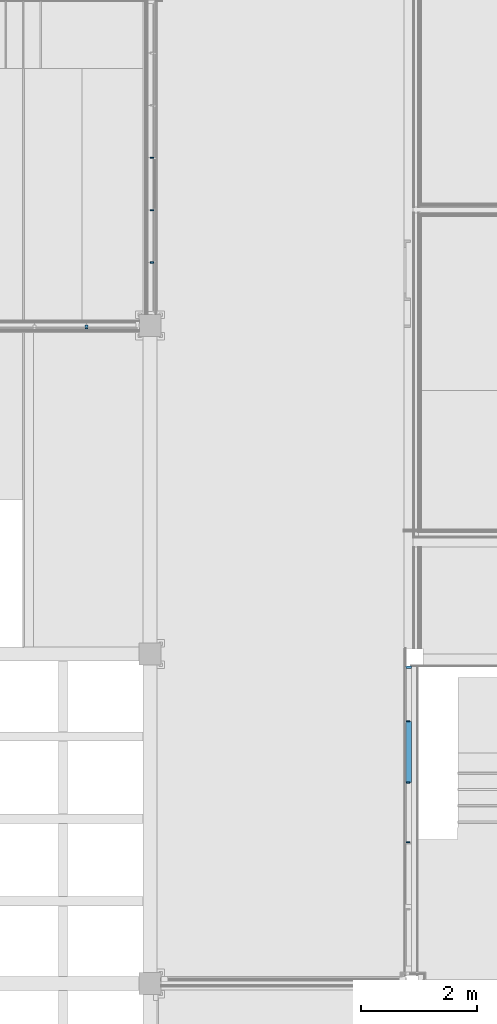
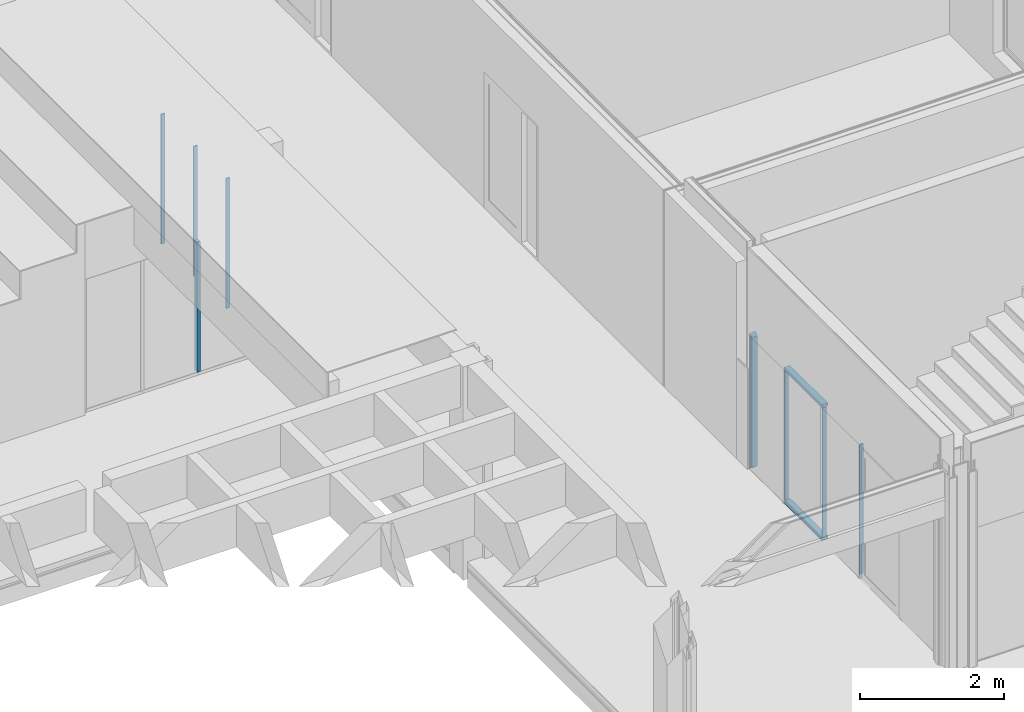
# One storey, part 8 of 139: 10 members, 3 elements without a shape of their own.
"""IFC2X3 building model written with IfcOpenShell, lengths in millimetres."""

from ifc_helpers import new_model, entity, si_unit, converted_unit, derived_unit, money_unit, direction, frame, origin_with_axes, place, context, subcontext, project, spatial, faceted_brep, source, transform, mapped, material, type_object, element, aggregate, save


model = new_model("IFC2X3")

# Units and contexts
model_context = context("Model", 3, precision=0.01, world=origin_with_axes(), true_north=direction((0.0, 1.0)))
body_context = subcontext(model_context, "Body", "Model", "MODEL_VIEW")
ifc_project = project(units=[si_unit("LENGTHUNIT", "METRE", prefix="MILLI"), si_unit("AREAUNIT", "SQUARE_METRE"), si_unit("VOLUMEUNIT", "CUBIC_METRE"), converted_unit("PLANEANGLEUNIT", "DEGREE", entity("IfcPlaneAngleMeasure", 0.0174532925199), si_unit("PLANEANGLEUNIT", "RADIAN"), dimensions=[0, 0, 0, 0, 0, 0, 0]), money_unit("EUR"), converted_unit("TIMEUNIT", "Year", entity("IfcTimeMeasure", 31556926.0), si_unit("TIMEUNIT", "SECOND"), dimensions=[0, 0, 1, 0, 0, 0, 0]), si_unit("MASSUNIT", "GRAM", prefix="KILO"), si_unit("THERMODYNAMICTEMPERATUREUNIT", "DEGREE_CELSIUS"), si_unit("LUMINOUSINTENSITYUNIT", "LUMEN"), si_unit("ENERGYUNIT", "JOULE", prefix="MEGA"), derived_unit("THERMALCONDUCTANCEUNIT", [(si_unit("POWERUNIT", "WATT"), 1), (si_unit("LENGTHUNIT", "METRE"), -1), (si_unit("THERMODYNAMICTEMPERATUREUNIT", "KELVIN"), -1)]), derived_unit("SPECIFICHEATCAPACITYUNIT", [(si_unit("ENERGYUNIT", "JOULE"), 1), (si_unit("MASSUNIT", "GRAM", prefix="KILO"), -1), (si_unit("THERMODYNAMICTEMPERATUREUNIT", "KELVIN"), -1)]), derived_unit("MASSDENSITYUNIT", [(si_unit("MASSUNIT", "GRAM", prefix="KILO"), 1), (si_unit("VOLUMEUNIT", "CUBIC_METRE"), -1)])], contexts=[model_context])

# Site, building, storey
site_placement = place(None, origin_with_axes())
site = spatial("IfcSite", under=ifc_project, at=site_placement, Name="Kolde pst 67a", CompositionType="ELEMENT")
building_placement = place(site_placement, origin_with_axes())
building = spatial("IfcBuilding", under=site, at=building_placement, Name="Riigigümnaasium", CompositionType="ELEMENT")
storey_placement = place(building_placement, frame((0.0, 0.0, 4600.0), z_axis=(0.0, 0.0, 1.0), x_axis=(1.0, 0.0, 0.0)))
storey = spatial("IfcBuildingStorey", under=building, at=storey_placement, Name="2. korrus", CompositionType="ELEMENT", Elevation=4600.0)

# Curtain wall, members
curtain_wall_type = type_object("IfcCurtainWallType", Name="Curtain Wall Type", PredefinedType="NOTDEFINED")
curtain_wall_1_placement = place(storey_placement, frame((52619.9941222, 32759.7635899, -0.000120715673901), z_axis=(0.0, 0.0, 1.0), x_axis=(1.0, 0.0, 0.0)))
curtain_wall_1 = element("IfcCurtainWall", 1, at=curtain_wall_1_placement, inside=storey, type_object=curtain_wall_type, Name="KLAASSEIN")
ifc_material_1 = material(Name="_GENEERILINE MATERJAL")
member_type_1 = type_object("IfcMemberType", Name="Boundary Frame 50 x 100", PredefinedType="MEMBER")
shared_shape_1 = source(origin_with_axes(), body_context, "Body", "Brep", [
    faceted_brep([(50.0, -10.0, 50.0), (50.0, -10.0, 2250.0), (50.0, -100.0, 2250.0), (50.0, -100.0, 50.0), (25.0, -10.0, 2275.0), (25.0, -10.0, 25.0), (25.0, 0.0, 2275.0), (0.0, 0.0, 2300.0), (0.0, -100.0, 2300.0), (0.0, -100.0, 0.0), (0.0, 0.0, 0.0), (25.0, 0.0, 25.0)], [[[0, 1, 2, 3]], [[4, 1, 0, 5]], [[4, 6, 7, 8, 2, 1]], [[2, 8, 9, 3]], [[5, 0, 3, 9, 10, 11]], [[11, 6, 4, 5]], [[6, 11, 10, 7]], [[8, 7, 10, 9]]]),
])
member_1_placement = place(curtain_wall_1_placement, frame((0.0, 1480.23642309, 2300.00012072), z_axis=(0.0, 0.0, -1.0), x_axis=(0.0, -1.0, 0.0)))
member_1 = element("IfcMember", 2, at=member_1_placement, type_object=member_type_1, material=ifc_material_1, Name="RF RAAM SERV-590", ObjectType="MEMBER", context=body_context, shape_type="MappedRepresentation", body=[
    mapped(shared_shape_1, transform((0.0, 0.0, 0.0))),
])
member_type_2 = type_object("IfcMemberType", Name="Mullion Frame 20 x 70", PredefinedType="MEMBER")
shared_shape_2 = source(origin_with_axes(), body_context, "Body", "Brep", [
    faceted_brep([(0.0, -10.0, 50.0), (-10.0, -10.0, 50.0), (-10.0, -10.0, 2250.0), (0.0, -10.0, 2250.0), (10.0, -10.0, 2250.0), (10.0, -10.0, 50.0), (10.0, -70.0, 50.0), (-10.0, -70.0, 50.0), (-10.0, -70.0, 2250.0), (10.0, -70.0, 2250.0)], [[[0, 1, 2, 3, 4, 5]], [[1, 0, 5, 6, 7]], [[2, 1, 7, 8]], [[3, 2, 8, 9, 4]], [[4, 9, 6, 5]], [[8, 7, 6, 9]]]),
])
member_2_placement = place(curtain_wall_1_placement, frame((0.0, 525.0, 0.0), z_axis=(0.0, 0.0, 1.0), x_axis=(0.0, 1.0, 0.0)))
member_2 = element("IfcMember", 3, at=member_2_placement, type_object=member_type_2, material=ifc_material_1, Name="RF RAAM VERT-366", ObjectType="MEMBER", context=body_context, shape_type="MappedRepresentation", body=[
    mapped(shared_shape_2, transform((0.0, 0.0, 0.0))),
])
member_3_placement = place(curtain_wall_1_placement, frame((0.0, -525.0, 0.0), z_axis=(0.0, 0.0, 1.0), x_axis=(0.0, 1.0, 0.0)))
member_3 = element("IfcMember", 4, at=member_3_placement, type_object=member_type_2, material=ifc_material_1, Name="RF RAAM VERT-367", ObjectType="MEMBER", context=body_context, shape_type="MappedRepresentation", body=[
    mapped(shared_shape_2, transform((0.0, 0.0, 0.0))),
])
member_4_placement = place(curtain_wall_1_placement, frame((0.0, -1553.00000076, 0.0), z_axis=(0.0, 0.0, 1.0), x_axis=(0.0, 1.0, 0.0)))
member_4 = element("IfcMember", 5, at=member_4_placement, type_object=member_type_2, material=ifc_material_1, Name="RF RAAM VERT-465", ObjectType="MEMBER", context=body_context, shape_type="MappedRepresentation", body=[
    mapped(shared_shape_2, transform((0.0, 0.0, 0.0))),
])

# Curtain wall, member
curtain_wall_2_placement = place(storey_placement, frame((47589.9854607, 40044.9999177, -2.01657108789e-05), z_axis=(0.0, 0.0, 1.0), x_axis=(1.0, 0.0, 0.0)))
curtain_wall_2 = element("IfcCurtainWall", 6, at=curtain_wall_2_placement, inside=storey, type_object=curtain_wall_type, Name="KLAASSEIN")
ifc_material_2 = material(Name="_KANDETARIND - puitkarkass")
member_type_3 = type_object("IfcMemberType", Name="Mullion Frame 50 x 70", PredefinedType="MEMBER")
shared_shape_3 = source(origin_with_axes(), body_context, "Body", "Brep", [
    faceted_brep([(5.0, -5.0, 2250.00002017), (5.0, 5.0, 2250.00002017), (25.0, 5.0, 2250.00002017), (25.0, 20.0, 2250.00002017), (-25.0, 20.0, 2250.00002017), (-25.0, 5.0, 2250.00002017), (-5.0, 5.0, 2250.00002017), (-5.0, -5.0, 2250.00002017), (-25.0, -5.0, 2250.00002017), (-25.0, -50.0, 2250.00002017), (25.0, -50.0, 2250.00002017), (25.0, -5.0, 2250.00002017), (5.0, -5.0, 50.0), (5.0, 5.0, 50.0), (25.0, 5.0, 50.0), (25.0, 20.0, 50.0), (-25.0, 20.0, 50.0), (-25.0, 5.0, 50.0), (-5.0, 5.0, 50.0), (-5.0, -5.0, 50.0), (-25.0, -5.0, 50.0), (-25.0, -50.0, 50.0), (25.0, -50.0, 50.0), (25.0, -5.0, 50.0)], [[[0, 1, 2, 3, 4, 5, 6, 7, 8, 9, 10, 11]], [[0, 12, 13, 1]], [[1, 13, 14, 2]], [[14, 15, 3, 2]], [[4, 3, 15, 16]], [[17, 5, 4, 16]], [[5, 17, 18, 6]], [[7, 6, 18, 19]], [[8, 7, 19, 20]], [[8, 20, 21, 9]], [[10, 9, 21, 22]], [[11, 10, 22, 23]], [[11, 23, 12, 0]], [[13, 12, 23, 22, 21, 20, 19, 18, 17, 16, 15, 14]]]),
])
member_5_placement = place(curtain_wall_2_placement, frame((-450.0, 0.0, 0.0), z_axis=(0.0, 0.0, 1.0), x_axis=(1.0, 0.0, 0.0)))
member_5 = element("IfcMember", 7, at=member_5_placement, type_object=member_type_3, material=ifc_material_2, Name="RF RAAM VERT-335", ObjectType="MEMBER", context=body_context, shape_type="MappedRepresentation", body=[
    mapped(shared_shape_3, transform((0.0, 0.0, 0.0), x_axis=(-1.0, 0.0, 0.0), y_axis=(0.0, -1.0, 0.0), z_axis=(0.0, 0.0, 1.0))),
])
aggregate(curtain_wall_2, [member_5])

# Curtain wall, members
curtain_wall_3_placement = place(storey_placement, frame((48304.9854607, 45219.9999598, 0.0), z_axis=(0.0, 0.0, 1.0), x_axis=(1.0, 0.0, 0.0)))
curtain_wall_3 = element("IfcCurtainWall", 8, at=curtain_wall_3_placement, inside=storey, type_object=curtain_wall_type, Name="KLAASSEIN")
shared_shape_4 = source(origin_with_axes(), body_context, "Body", "Brep", [
    faceted_brep([(0.0, -10.0, 50.0), (-10.0, -10.0, 50.0), (-10.0, -10.0, 2250.00008941), (0.0, -10.0, 2250.00008941), (10.0, -10.0, 2250.00008941), (10.0, -10.0, 50.0), (10.0, -70.0, 50.0), (-10.0, -70.0, 50.0), (-10.0, -70.0, 2250.00008941), (10.0, -70.0, 2250.00008941)], [[[0, 1, 2, 3, 4, 5]], [[5, 6, 7, 1, 0]], [[2, 1, 7, 8]], [[3, 2, 8, 9, 4]], [[4, 9, 6, 5]], [[9, 8, 7, 6]]]),
])
member_6_placement = place(curtain_wall_3_placement, frame((0.0, -2250.0, 0.0), z_axis=(0.0, 0.0, 1.0), x_axis=(0.0, 1.0, 0.0)))
member_6 = element("IfcMember", 9, at=member_6_placement, type_object=member_type_2, material=ifc_material_2, Name="RF RAAM VERT-308", ObjectType="MEMBER", context=body_context, shape_type="MappedRepresentation", body=[
    mapped(shared_shape_4, transform((0.0, 0.0, 0.0), x_axis=(-1.0, 0.0, 0.0), y_axis=(0.0, -1.0, 0.0), z_axis=(0.0, 0.0, 1.0))),
])
member_7_placement = place(curtain_wall_3_placement, frame((0.0, -3150.0, 0.0), z_axis=(0.0, 0.0, 1.0), x_axis=(0.0, 1.0, 0.0)))
member_7 = element("IfcMember", 10, at=member_7_placement, type_object=member_type_2, material=ifc_material_2, Name="RF RAAM VERT-309", ObjectType="MEMBER", context=body_context, shape_type="MappedRepresentation", body=[
    mapped(shared_shape_4, transform((0.0, 0.0, 0.0), x_axis=(-1.0, 0.0, 0.0), y_axis=(0.0, -1.0, 0.0), z_axis=(0.0, 0.0, 1.0))),
])
member_8_placement = place(curtain_wall_3_placement, frame((0.0, -4050.0, 0.0), z_axis=(0.0, 0.0, 1.0), x_axis=(0.0, 1.0, 0.0)))
member_8 = element("IfcMember", 11, at=member_8_placement, type_object=member_type_2, material=ifc_material_2, Name="RF RAAM VERT-310", ObjectType="MEMBER", context=body_context, shape_type="MappedRepresentation", body=[
    mapped(shared_shape_4, transform((0.0, 0.0, 0.0), x_axis=(-1.0, 0.0, 0.0), y_axis=(0.0, -1.0, 0.0), z_axis=(0.0, 0.0, 1.0))),
])
aggregate(curtain_wall_3, [member_6, member_7, member_8])

# Member
shared_shape_5 = source(origin_with_axes(), body_context, "Body", "Brep", [
    faceted_brep([(50.0, -10.0, 0.0), (50.0, -10.0, 1050.0), (50.0, -100.0, 1050.0), (50.0, -100.0, 0.0), (25.0, -10.0, 1050.0), (25.0, -10.0, 0.0), (25.0, 0.0, 1050.0), (0.0, 0.0, 1050.0), (0.0, -100.0, 1050.0), (0.0, -100.0, 0.0), (0.0, 0.0, 0.0), (25.0, 0.0, 0.0)], [[[0, 1, 2, 3]], [[4, 1, 0, 5]], [[4, 6, 7, 8, 2, 1]], [[3, 2, 8, 9]], [[5, 0, 3, 9, 10, 11]], [[11, 6, 4, 5]], [[6, 11, 10, 7]], [[9, 8, 7, 10]]]),
])
member_9_placement = place(curtain_wall_1_placement, frame((0.0, 525.0, 0.0), z_axis=(0.0, -1.0, 0.0), x_axis=(0.0, 0.0, 1.0)))
member_9 = element("IfcMember", 12, at=member_9_placement, type_object=member_type_1, material=ifc_material_1, Name="RF RAAM SERV-592", ObjectType="MEMBER", context=body_context, shape_type="MappedRepresentation", body=[
    mapped(shared_shape_5, transform((0.0, 0.0, 0.0))),
])

shared_shape_6 = source(origin_with_axes(), body_context, "Body", "Brep", [
    faceted_brep([(-50.0, -10.0, 0.0), (-50.0, -100.0, 0.0), (-50.0, -100.0, 1050.0), (-50.0, -10.0, 1050.0), (-25.0, -10.0, 0.0), (-25.0, 0.0, 0.0), (0.0, 0.0, 0.0), (0.0, -100.0, 0.0), (0.0, -100.0, 1050.0), (-25.0, -10.0, 1050.0), (0.0, 0.0, 1050.0), (-25.0, 0.0, 1050.0)], [[[0, 1, 2, 3]], [[4, 5, 6, 7, 1, 0]], [[1, 7, 8, 2]], [[9, 3, 2, 8, 10, 11]], [[9, 4, 0, 3]], [[5, 4, 9, 11]], [[11, 10, 6, 5]], [[7, 6, 10, 8]]]),
])
member_10_placement = place(curtain_wall_1_placement, frame((0.0, 525.0, 2300.00012072), z_axis=(0.0, -1.0, 0.0), x_axis=(0.0, 0.0, 1.0)))
member_10 = element("IfcMember", 13, at=member_10_placement, type_object=member_type_1, material=ifc_material_1, Name="RF RAAM SERV-602", ObjectType="MEMBER", context=body_context, shape_type="MappedRepresentation", body=[
    mapped(shared_shape_6, transform((0.0, 0.0, 0.0))),
])

aggregate(curtain_wall_1, [member_9, member_10, member_2, member_3, member_1, member_4])

save(model, "model.ifc")
